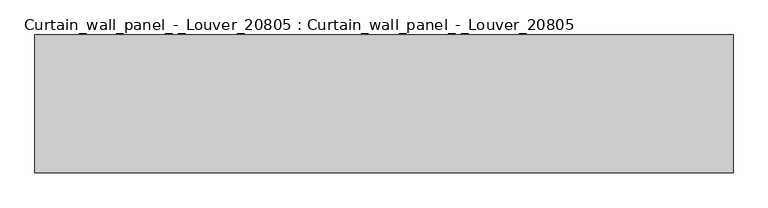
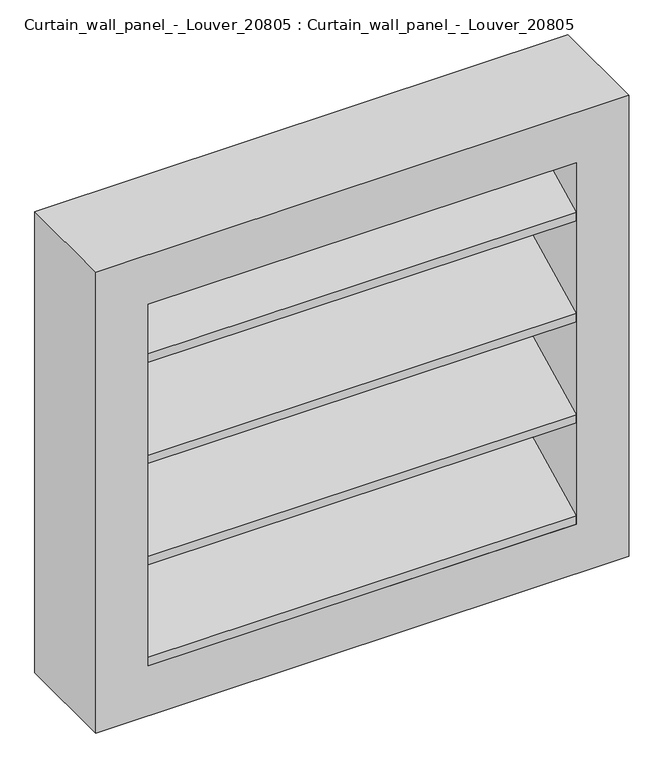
"""IFC4 building model written with IfcOpenShell, lengths in millimetres: plate geometry, Curtain_wall_panel_-_Louver_20805 : Curtain_wall_panel_-_Louver_20805."""

from ifc_helpers import new_model, si_unit, frame, origin, place, context, project, spatial, polyline, outline, extrude, source, transform, mapped, element, save


def curtain_wall_panel_louver_20805_curtain_wall_panel_louver_d3fb298f(model_context):
    return source(origin(), model_context, "Body", "SweptSolid", [
        extrude(outline(polyline([(200.0, 605.2950441), (0.0, 505.910046), (0.0, 522.6599789), (200.0, 622.044977), (200.0, 605.2950441)])), frame((-406.2500001, 0.0, 0.0), z_axis=(1.0, 0.0, 0.0), x_axis=(0.0, 1.0, 0.0)), (0.0, 0.0, 1.0), 812.5000001),
        extrude(outline(polyline([(200.0, 402.3400211), (0.0, 302.955023), (0.0, 319.7049559), (200.0, 419.089954), (200.0, 402.3400211)])), frame((-406.2500001, 0.0, 0.0), z_axis=(1.0, 0.0, 0.0), x_axis=(0.0, 1.0, 0.0)), (0.0, 0.0, 1.0), 812.5000001),
        extrude(outline(polyline([(200.0, 808.2500672), (0.0, 708.8650691), (0.0, 725.6150019), (200.0, 825.0), (200.0, 808.2500672)])), frame((-406.2500001, 0.0, 0.0), z_axis=(1.0, 0.0, 0.0), x_axis=(0.0, 1.0, 0.0)), (0.0, 0.0, 1.0), 812.5000001),
        extrude(outline(polyline([(200.0, 199.3849981), (0.0, 100.0), (0.0, 116.7499328), (200.0, 216.1349309), (200.0, 199.3849981)])), frame((-406.2500001, 0.0, 0.0), z_axis=(1.0, 0.0, 0.0), x_axis=(0.0, 1.0, 0.0)), (0.0, 0.0, 1.0), 812.5000001),
        extrude(outline(polyline([(925.0, -506.2500001), (0.0, -506.2500001), (0.0, 506.2500001), (925.0, 506.2500001), (925.0, -506.2500001)]), holes=[polyline([(825.0, -406.2500001), (825.0, 406.2500001), (100.0, 406.2500001), (100.0, -406.2500001), (825.0, -406.2500001)])]), frame((0.0, 0.0, 0.0), z_axis=(0.0, 1.0, 0.0), x_axis=(0.0, 0.0, 1.0)), (0.0, 0.0, 1.0), 200.0),
    ])


if __name__ == "__main__":
    model = new_model("IFC4")
    model_context = context("Model", 3, world=origin())
    ifc_project = project(units=[si_unit("LENGTHUNIT", "METRE", prefix="MILLI")], contexts=[model_context])
    site = spatial("IfcSite", under=ifc_project)
    building = spatial("IfcBuilding", under=site)
    placement = place(None, origin())
    curtain_wall_panel_louver_20805_curtain_wall_panel_louver_shape = curtain_wall_panel_louver_20805_curtain_wall_panel_louver_d3fb298f(model_context)
    element("IfcPlate", 1, ObjectType="Curtain_wall_panel_-_Louver_20805 : Curtain_wall_panel_-_Louver_20805", at=placement, inside=building, context=model_context, shape_type="MappedRepresentation", body=[
        mapped(curtain_wall_panel_louver_20805_curtain_wall_panel_louver_shape, transform((0.0, 0.0, 0.0), x_axis=(1.0, 0.0, 0.0), y_axis=(0.0, 1.0, 0.0), z_axis=(0.0, 0.0, 1.0))),
    ])
    save(model, "model.ifc")
